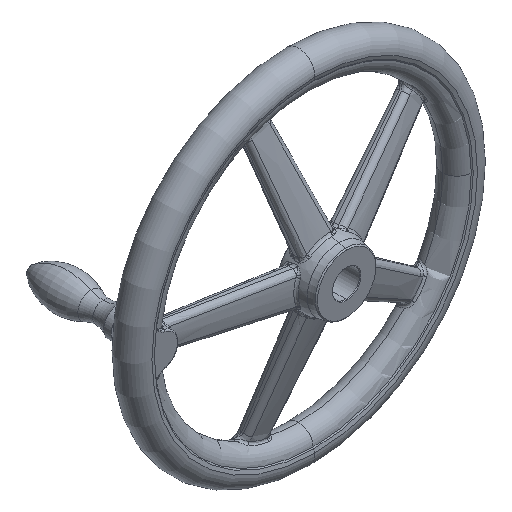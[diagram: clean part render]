
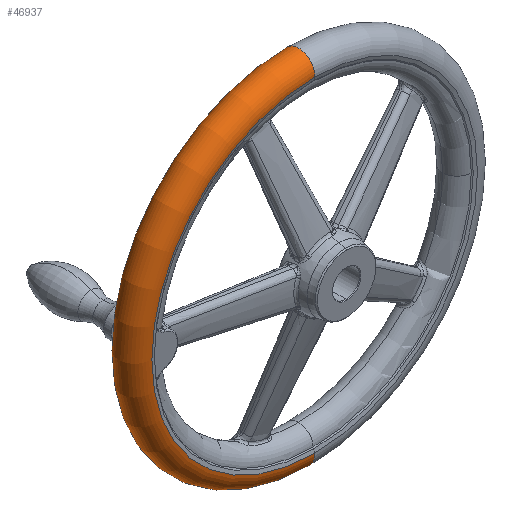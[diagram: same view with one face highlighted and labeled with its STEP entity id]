
A CAD part, isometric view. The second image highlights one B-rep face of the part: STEP entity #46937.
In plain terms, the highlighted toroidal (fillet/blend) face has major radius 143.462 mm and minor radius 14.039 mm.
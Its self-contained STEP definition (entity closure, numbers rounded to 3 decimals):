
#646 = AXIS2_PLACEMENT_3D ( 'NONE', #699, #698, #697 ) ;
#697 = DIRECTION ( 'NONE',  ( 0., 0., -1. ) ) ;
#698 = DIRECTION ( 'NONE',  ( 0., -1., 0. ) ) ;
#699 = CARTESIAN_POINT ( 'NONE',  ( 0., 56., 0. ) ) ;
#705 = CIRCLE ( 'NONE', #646, 142.423 ) ;
#706 = CARTESIAN_POINT ( 'NONE',  ( 0., 56., 142.423 ) ) ;
#713 = CARTESIAN_POINT ( 'NONE',  ( 0., 28., 142.423 ) ) ;
#745 = CARTESIAN_POINT ( 'NONE',  ( 0., 56., -142.423 ) ) ;
#1925 = DIRECTION ( 'NONE',  ( 0., 0., -1. ) ) ;
#1926 = DIRECTION ( 'NONE',  ( 0., -1., 0. ) ) ;
#1927 = CARTESIAN_POINT ( 'NONE',  ( 0., 28., 0. ) ) ;
#1928 = AXIS2_PLACEMENT_3D ( 'NONE', #1927, #1926, #1925 ) ;
#1930 = CIRCLE ( 'NONE', #1928, 142.423 ) ;
#6715 = VERTEX_POINT ( 'NONE', #42630 ) ;
#7216 = EDGE_CURVE ( 'NONE', #10633, #6715, #43281, .T. ) ;
#7243 = EDGE_CURVE ( 'NONE', #10607, #10575, #43369, .T. ) ;
#10575 = VERTEX_POINT ( 'NONE', #713 ) ;
#10607 = VERTEX_POINT ( 'NONE', #706 ) ;
#10613 = EDGE_CURVE ( 'NONE', #10607, #10633, #705, .T. ) ;
#10633 = VERTEX_POINT ( 'NONE', #745 ) ;
#11638 = EDGE_CURVE ( 'NONE', #10575, #6715, #1930, .T. ) ;
#28822 = ORIENTED_EDGE ( 'NONE', *, *, #10613, .T. ) ;
#33090 = AXIS2_PLACEMENT_3D ( 'NONE', #33246, #33250, #33240 ) ;
#33240 = DIRECTION ( 'NONE',  ( 0., 0., -1. ) ) ;
#33246 = CARTESIAN_POINT ( 'NONE',  ( 0., 42., 0. ) ) ;
#33248 = TOROIDAL_SURFACE ( 'NONE', #33090, 143.462, 14.038 ) ;
#33250 = DIRECTION ( 'NONE',  ( 0., -1., 0. ) ) ;
#33253 = FACE_OUTER_BOUND ( 'NONE', #46890, .T. ) ;
#42630 = CARTESIAN_POINT ( 'NONE',  ( 0., 28., -142.423 ) ) ;
#43281 = CIRCLE ( 'NONE', #43297, 14.038 ) ;
#43297 = AXIS2_PLACEMENT_3D ( 'NONE', #43314, #43313, #43312 ) ;
#43312 = DIRECTION ( 'NONE',  ( 0., 0., 1. ) ) ;
#43313 = DIRECTION ( 'NONE',  ( -1., 0., 0. ) ) ;
#43314 = CARTESIAN_POINT ( 'NONE',  ( 0., 42., -143.462 ) ) ;
#43364 = DIRECTION ( 'NONE',  ( 0., 0., -1. ) ) ;
#43365 = DIRECTION ( 'NONE',  ( 1., 0., 0. ) ) ;
#43366 = CARTESIAN_POINT ( 'NONE',  ( 0., 42., 143.462 ) ) ;
#43367 = AXIS2_PLACEMENT_3D ( 'NONE', #43366, #43365, #43364 ) ;
#43369 = CIRCLE ( 'NONE', #43367, 14.038 ) ;
#46890 = EDGE_LOOP ( 'NONE', ( #46940, #28822, #46899, #46900 ) ) ;
#46899 = ORIENTED_EDGE ( 'NONE', *, *, #7216, .T. ) ;
#46900 = ORIENTED_EDGE ( 'NONE', *, *, #11638, .F. ) ;
#46937 = ADVANCED_FACE ( 'NONE', ( #33253 ), #33248, .T. ) ;
#46940 = ORIENTED_EDGE ( 'NONE', *, *, #7243, .F. ) ;
